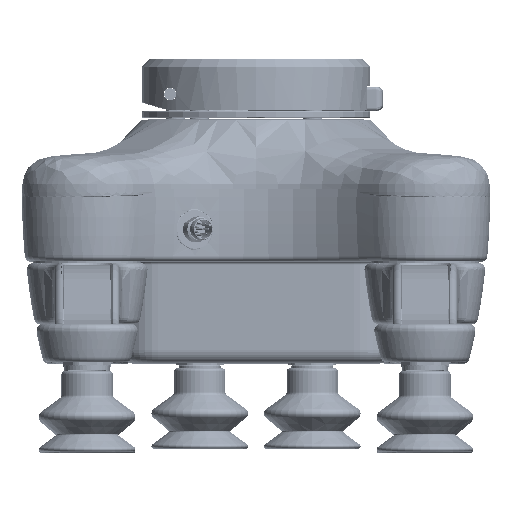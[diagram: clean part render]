
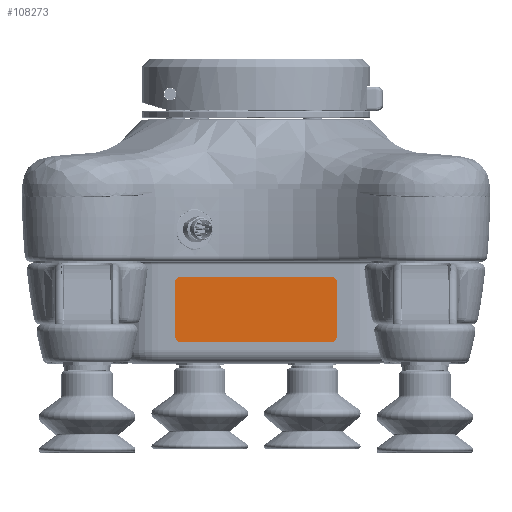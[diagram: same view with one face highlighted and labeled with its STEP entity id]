
A CAD part, top view. The second image highlights one B-rep face of the part: STEP entity #108273.
In plain terms, the highlighted planar face has unit normal (0, 0, 1).
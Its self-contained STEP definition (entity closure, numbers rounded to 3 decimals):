
#2220 = LINE ( 'NONE', #61441, #162411 ) ;
#3196 = AXIS2_PLACEMENT_3D ( 'NONE', #94112, #240235, #115104 ) ;
#3760 = CARTESIAN_POINT ( 'NONE',  ( -23.2, -45.1, 42.2 ) ) ;
#11058 = CIRCLE ( 'NONE', #42346, 2. ) ;
#11681 = DIRECTION ( 'NONE',  ( 1., 0., 0. ) ) ;
#13925 = CARTESIAN_POINT ( 'NONE',  ( -25.2, -26.7, 42.2 ) ) ;
#21490 = CARTESIAN_POINT ( 'NONE',  ( -23.2, -26.7, 42.2 ) ) ;
#24692 = DIRECTION ( 'NONE',  ( 1., 0., 0. ) ) ;
#28716 = CARTESIAN_POINT ( 'NONE',  ( 25.2, -26.7, 42.2 ) ) ;
#31787 = CARTESIAN_POINT ( 'NONE',  ( -23.2, -43.1, 42.2 ) ) ;
#37501 = EDGE_LOOP ( 'NONE', ( #109944, #151414, #270165, #208972, #63839, #226682, #218372, #156625 ) ) ;
#37977 = VECTOR ( 'NONE', #196032, 1000. ) ;
#38414 = CARTESIAN_POINT ( 'NONE',  ( 25.2, -26.7, 42.2 ) ) ;
#42346 = AXIS2_PLACEMENT_3D ( 'NONE', #46538, #192814, #67602 ) ;
#42587 = DIRECTION ( 'NONE',  ( 1., 0., 0. ) ) ;
#43373 = CARTESIAN_POINT ( 'NONE',  ( 23.2, -24.7, 42.2 ) ) ;
#43560 = CIRCLE ( 'NONE', #179788, 2. ) ;
#46538 = CARTESIAN_POINT ( 'NONE',  ( 23.2, -26.7, 42.2 ) ) ;
#53044 = EDGE_CURVE ( 'NONE', #153273, #266342, #197171, .T. ) ;
#58729 = VECTOR ( 'NONE', #242335, 1000. ) ;
#61441 = CARTESIAN_POINT ( 'NONE',  ( -23.2, -24.7, 42.2 ) ) ;
#63839 = ORIENTED_EDGE ( 'NONE', *, *, #179068, .T. ) ;
#67602 = DIRECTION ( 'NONE',  ( -1., 0., 0. ) ) ;
#69607 = AXIS2_PLACEMENT_3D ( 'NONE', #31787, #136929, #11681 ) ;
#88563 = CARTESIAN_POINT ( 'NONE',  ( -25.2, -43.1, 42.2 ) ) ;
#89576 = CARTESIAN_POINT ( 'NONE',  ( 23.2, -43.1, 42.2 ) ) ;
#92560 = CARTESIAN_POINT ( 'NONE',  ( 25.2, -43.1, 42.2 ) ) ;
#94112 = CARTESIAN_POINT ( 'NONE',  ( -23.2, -43.1, 42.2 ) ) ;
#96250 = CARTESIAN_POINT ( 'NONE',  ( -25.2, -26.7, 42.2 ) ) ;
#97562 = VECTOR ( 'NONE', #24692, 1000. ) ;
#100189 = LINE ( 'NONE', #28716, #37977 ) ;
#103119 = FACE_OUTER_BOUND ( 'NONE', #37501, .T. ) ;
#103564 = DIRECTION ( 'NONE',  ( -1., 0., 0. ) ) ;
#108273 = ADVANCED_FACE ( 'NONE', ( #103119 ), #261999, .T. ) ;
#109944 = ORIENTED_EDGE ( 'NONE', *, *, #53044, .T. ) ;
#110587 = DIRECTION ( 'NONE',  ( 1., 0., 0. ) ) ;
#115104 = DIRECTION ( 'NONE',  ( 1., 0., 0. ) ) ;
#136929 = DIRECTION ( 'NONE',  ( 0., 0., 1. ) ) ;
#149227 = VERTEX_POINT ( 'NONE', #253265 ) ;
#151414 = ORIENTED_EDGE ( 'NONE', *, *, #232355, .T. ) ;
#153168 = LINE ( 'NONE', #3760, #97562 ) ;
#153273 = VERTEX_POINT ( 'NONE', #88563 ) ;
#156625 = ORIENTED_EDGE ( 'NONE', *, *, #189400, .T. ) ;
#162411 = VECTOR ( 'NONE', #103564, 1000. ) ;
#167790 = DIRECTION ( 'NONE',  ( 0., 0., 1. ) ) ;
#179068 = EDGE_CURVE ( 'NONE', #265040, #229753, #11058, .T. ) ;
#179788 = AXIS2_PLACEMENT_3D ( 'NONE', #21490, #167790, #42587 ) ;
#189400 = EDGE_CURVE ( 'NONE', #231962, #153273, #218930, .T. ) ;
#192694 = EDGE_CURVE ( 'NONE', #229753, #197020, #2220, .T. ) ;
#192814 = DIRECTION ( 'NONE',  ( 0., 0., 1. ) ) ;
#195438 = CARTESIAN_POINT ( 'NONE',  ( -23.2, -45.1, 42.2 ) ) ;
#196032 = DIRECTION ( 'NONE',  ( 0., 1., 0. ) ) ;
#197020 = VERTEX_POINT ( 'NONE', #198114 ) ;
#197171 = CIRCLE ( 'NONE', #3196, 2. ) ;
#198114 = CARTESIAN_POINT ( 'NONE',  ( -23.2, -24.7, 42.2 ) ) ;
#202374 = EDGE_CURVE ( 'NONE', #233900, #265040, #100189, .T. ) ;
#208972 = ORIENTED_EDGE ( 'NONE', *, *, #202374, .T. ) ;
#217403 = EDGE_CURVE ( 'NONE', #197020, #231962, #43560, .T. ) ;
#218372 = ORIENTED_EDGE ( 'NONE', *, *, #217403, .T. ) ;
#218930 = LINE ( 'NONE', #96250, #58729 ) ;
#219448 = AXIS2_PLACEMENT_3D ( 'NONE', #89576, #235754, #110587 ) ;
#226682 = ORIENTED_EDGE ( 'NONE', *, *, #192694, .T. ) ;
#228519 = CIRCLE ( 'NONE', #219448, 2. ) ;
#229753 = VERTEX_POINT ( 'NONE', #43373 ) ;
#231962 = VERTEX_POINT ( 'NONE', #13925 ) ;
#232355 = EDGE_CURVE ( 'NONE', #266342, #149227, #153168, .T. ) ;
#233900 = VERTEX_POINT ( 'NONE', #92560 ) ;
#235754 = DIRECTION ( 'NONE',  ( 0., 0., 1. ) ) ;
#240235 = DIRECTION ( 'NONE',  ( 0., 0., 1. ) ) ;
#242335 = DIRECTION ( 'NONE',  ( 0., -1., 0. ) ) ;
#251084 = EDGE_CURVE ( 'NONE', #149227, #233900, #228519, .T. ) ;
#253265 = CARTESIAN_POINT ( 'NONE',  ( 23.2, -45.1, 42.2 ) ) ;
#261999 = PLANE ( 'NONE',  #69607 ) ;
#265040 = VERTEX_POINT ( 'NONE', #38414 ) ;
#266342 = VERTEX_POINT ( 'NONE', #195438 ) ;
#270165 = ORIENTED_EDGE ( 'NONE', *, *, #251084, .T. ) ;
